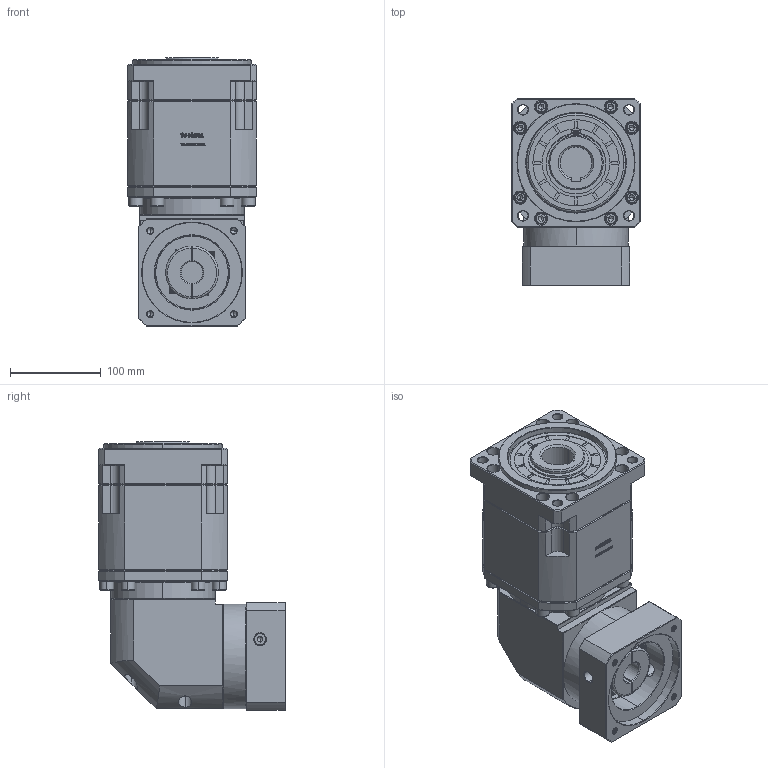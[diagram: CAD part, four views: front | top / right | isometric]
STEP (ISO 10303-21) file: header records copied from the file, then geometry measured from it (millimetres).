
FILE_DESCRIPTION (( 'STEP AP214' ), '1' );
FILE_NAME ('ZBR142A-K35-L3-24-110-130-M8.step', '2023-03-20T04:17:30', ( '' ), ( '' ), 'SwSTEP 2.0', 'SolidWorks 2016', '' );
FILE_SCHEMA (( 'AUTOMOTIVE_DESIGN' ));
Length unit declared in the file: millimetre
Products named in the file (1): ZBR142A-K35-L3-24-110-130-M8
Bounding box: 142 x 205.9 x 295.2 mm (x, y, z)
Volume: 4960216.3 mm3; surface area: 332091.5 mm2
Topology: 6 solids, 6 shells, 3130 faces, 8265 edges, 5302 vertices
Faces by surface type: plane 1645, bspline 585, cylinder 465, cone 391, torus 44
Entity records: 164122 total; most frequent: CARTESIAN_POINT 56678, ORIENTED_EDGE 16426, DIRECTION 12886, EDGE_CURVE 8213, LINE 5530, VECTOR 5530, VERTEX_POINT 5302, AXIS2_PLACEMENT_3D 3678
